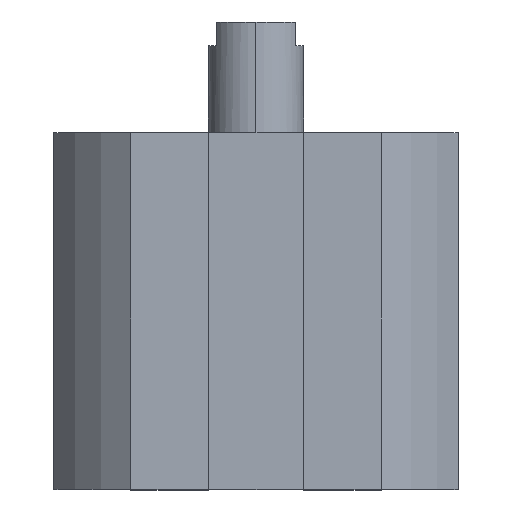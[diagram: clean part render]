
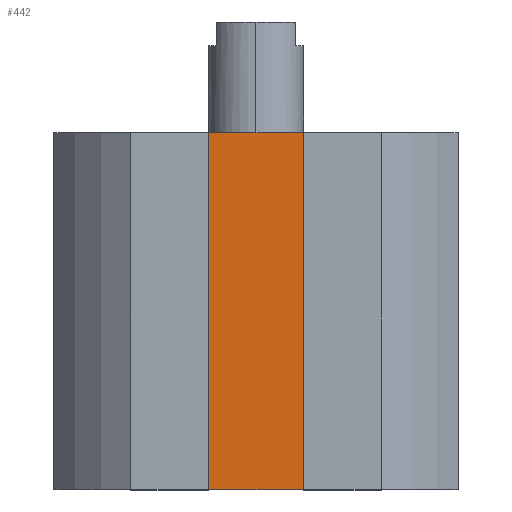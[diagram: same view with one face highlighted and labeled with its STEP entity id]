
A CAD part, top view. The second image highlights one B-rep face of the part: STEP entity #442.
In plain terms, the highlighted planar face has unit normal (0, 0, 1).
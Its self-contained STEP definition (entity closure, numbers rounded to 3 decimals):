
#68 = VERTEX_POINT ( 'NONE', #2080 ) ;
#85 = EDGE_CURVE ( 'NONE', #1689, #787, #1665, .T. ) ;
#185 = EDGE_LOOP ( 'NONE', ( #1247, #457, #1331, #2430 ) ) ;
#226 = CARTESIAN_POINT ( 'NONE',  ( 0., -45., 17. ) ) ;
#392 = CARTESIAN_POINT ( 'NONE',  ( 7.7, -45., 17. ) ) ;
#398 = CARTESIAN_POINT ( 'NONE',  ( -7.7, -45., 17. ) ) ;
#442 = ADVANCED_FACE ( 'NONE', ( #1362 ), #1309, .T. ) ;
#457 = ORIENTED_EDGE ( 'NONE', *, *, #2105, .F. ) ;
#575 = DIRECTION ( 'NONE',  ( 0., 1., 0. ) ) ;
#767 = EDGE_CURVE ( 'NONE', #1908, #68, #2636, .T. ) ;
#787 = VERTEX_POINT ( 'NONE', #1400 ) ;
#877 = DIRECTION ( 'NONE',  ( 1., 0., 0. ) ) ;
#928 = VECTOR ( 'NONE', #1437, 1000. ) ;
#1109 = LINE ( 'NONE', #392, #2610 ) ;
#1241 = DIRECTION ( 'NONE',  ( 0., 1., 0. ) ) ;
#1247 = ORIENTED_EDGE ( 'NONE', *, *, #767, .F. ) ;
#1251 = CARTESIAN_POINT ( 'NONE',  ( -7.7, -45., 17. ) ) ;
#1309 = PLANE ( 'NONE',  #2350 ) ;
#1331 = ORIENTED_EDGE ( 'NONE', *, *, #85, .T. ) ;
#1362 = FACE_OUTER_BOUND ( 'NONE', #185, .T. ) ;
#1400 = CARTESIAN_POINT ( 'NONE',  ( 7.7, -45., 17. ) ) ;
#1437 = DIRECTION ( 'NONE',  ( 1., 0., 0. ) ) ;
#1665 = LINE ( 'NONE', #2568, #928 ) ;
#1689 = VERTEX_POINT ( 'NONE', #398 ) ;
#1908 = VERTEX_POINT ( 'NONE', #2009 ) ;
#2009 = CARTESIAN_POINT ( 'NONE',  ( -7.7, 0., 17. ) ) ;
#2047 = DIRECTION ( 'NONE',  ( 1., 0., 0. ) ) ;
#2080 = CARTESIAN_POINT ( 'NONE',  ( 7.7, 0., 17. ) ) ;
#2105 = EDGE_CURVE ( 'NONE', #1689, #1908, #2156, .T. ) ;
#2139 = VECTOR ( 'NONE', #2047, 1000. ) ;
#2156 = LINE ( 'NONE', #1251, #2268 ) ;
#2171 = DIRECTION ( 'NONE',  ( 0., 0., 1. ) ) ;
#2268 = VECTOR ( 'NONE', #1241, 1000. ) ;
#2350 = AXIS2_PLACEMENT_3D ( 'NONE', #226, #2171, #877 ) ;
#2361 = EDGE_CURVE ( 'NONE', #787, #68, #1109, .T. ) ;
#2430 = ORIENTED_EDGE ( 'NONE', *, *, #2361, .T. ) ;
#2497 = CARTESIAN_POINT ( 'NONE',  ( 0., 0., 17. ) ) ;
#2568 = CARTESIAN_POINT ( 'NONE',  ( 0., -45., 17. ) ) ;
#2610 = VECTOR ( 'NONE', #575, 1000. ) ;
#2636 = LINE ( 'NONE', #2497, #2139 ) ;
